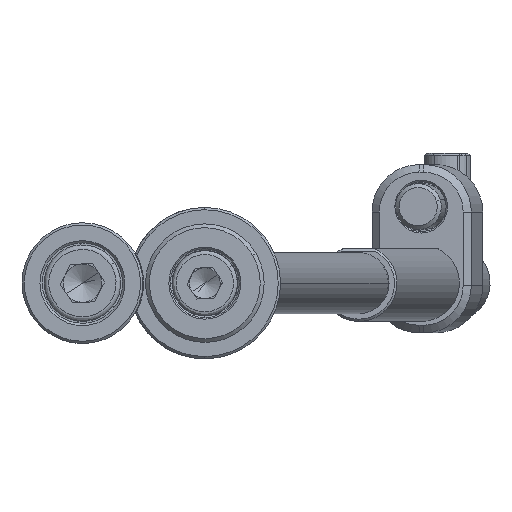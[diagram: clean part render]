
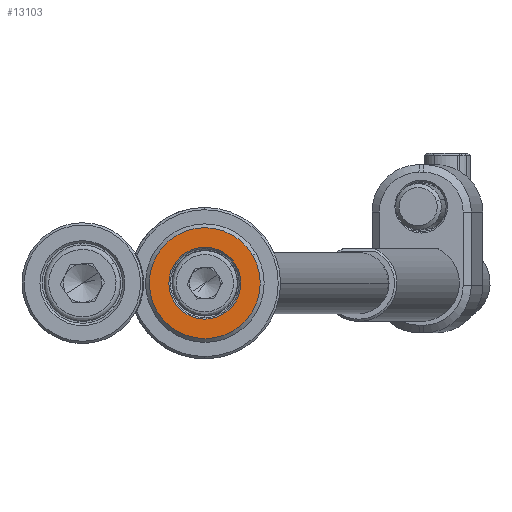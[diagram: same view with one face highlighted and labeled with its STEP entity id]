
A CAD part, front view. The second image highlights one B-rep face of the part: STEP entity #13103.
In plain terms, the highlighted planar face has unit normal (0, -1, 0).
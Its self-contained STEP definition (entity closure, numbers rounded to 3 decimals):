
#50 = DIRECTION ( 'NONE',  ( 0., -1., 0. ) ) ;
#73 = DIRECTION ( 'NONE',  ( -0.865, 0., -0.503 ) ) ;
#572 = CARTESIAN_POINT ( 'NONE',  ( 6.268, -4., 3.643 ) ) ;
#909 = DIRECTION ( 'NONE',  ( -0.865, 0., -0.503 ) ) ;
#944 = EDGE_LOOP ( 'NONE', ( #14071, #982 ) ) ;
#982 = ORIENTED_EDGE ( 'NONE', *, *, #5850, .T. ) ;
#1060 = EDGE_LOOP ( 'NONE', ( #3881, #13737 ) ) ;
#1121 = AXIS2_PLACEMENT_3D ( 'NONE', #3391, #8800, #73 ) ;
#1833 = CARTESIAN_POINT ( 'NONE',  ( -6.268, -4., -3.643 ) ) ;
#1846 = VERTEX_POINT ( 'NONE', #8644 ) ;
#2854 = CARTESIAN_POINT ( 'NONE',  ( -4.063, -4., -2.362 ) ) ;
#3391 = CARTESIAN_POINT ( 'NONE',  ( 0., -4., 0. ) ) ;
#3430 = CIRCLE ( 'NONE', #7579, 4.7 ) ;
#3811 = FACE_OUTER_BOUND ( 'NONE', #1060, .T. ) ;
#3880 = DIRECTION ( 'NONE',  ( 0., 1., 0. ) ) ;
#3881 = ORIENTED_EDGE ( 'NONE', *, *, #5665, .T. ) ;
#4015 = DIRECTION ( 'NONE',  ( -0.865, 0., -0.503 ) ) ;
#4333 = AXIS2_PLACEMENT_3D ( 'NONE', #11989, #50, #12129 ) ;
#4835 = VERTEX_POINT ( 'NONE', #2854 ) ;
#5510 = CIRCLE ( 'NONE', #1121, 7.25 ) ;
#5665 = EDGE_CURVE ( 'NONE', #7705, #7986, #5510, .T. ) ;
#5850 = EDGE_CURVE ( 'NONE', #4835, #1846, #3430, .T. ) ;
#6864 = AXIS2_PLACEMENT_3D ( 'NONE', #13648, #13795, #9708 ) ;
#7212 = CIRCLE ( 'NONE', #10885, 4.7 ) ;
#7579 = AXIS2_PLACEMENT_3D ( 'NONE', #9353, #12544, #4015 ) ;
#7705 = VERTEX_POINT ( 'NONE', #1833 ) ;
#7986 = VERTEX_POINT ( 'NONE', #572 ) ;
#8323 = EDGE_CURVE ( 'NONE', #1846, #4835, #7212, .T. ) ;
#8644 = CARTESIAN_POINT ( 'NONE',  ( 4.063, -4., 2.362 ) ) ;
#8800 = DIRECTION ( 'NONE',  ( 0., -1., 0. ) ) ;
#9353 = CARTESIAN_POINT ( 'NONE',  ( 0., -4., 0. ) ) ;
#9442 = FACE_BOUND ( 'NONE', #944, .T. ) ;
#9708 = DIRECTION ( 'NONE',  ( -0.865, 0., -0.503 ) ) ;
#10537 = CIRCLE ( 'NONE', #4333, 7.25 ) ;
#10885 = AXIS2_PLACEMENT_3D ( 'NONE', #13714, #3880, #909 ) ;
#11649 = PLANE ( 'NONE',  #6864 ) ;
#11989 = CARTESIAN_POINT ( 'NONE',  ( 0., -4., 0. ) ) ;
#12129 = DIRECTION ( 'NONE',  ( -0.865, 0., -0.503 ) ) ;
#12544 = DIRECTION ( 'NONE',  ( 0., 1., 0. ) ) ;
#13103 = ADVANCED_FACE ( 'NONE', ( #9442, #3811 ), #11649, .F. ) ;
#13207 = EDGE_CURVE ( 'NONE', #7986, #7705, #10537, .T. ) ;
#13648 = CARTESIAN_POINT ( 'NONE',  ( 2.261, -4., -3.891 ) ) ;
#13714 = CARTESIAN_POINT ( 'NONE',  ( 0., -4., 0. ) ) ;
#13737 = ORIENTED_EDGE ( 'NONE', *, *, #13207, .T. ) ;
#13795 = DIRECTION ( 'NONE',  ( 0., 1., 0. ) ) ;
#14071 = ORIENTED_EDGE ( 'NONE', *, *, #8323, .T. ) ;
